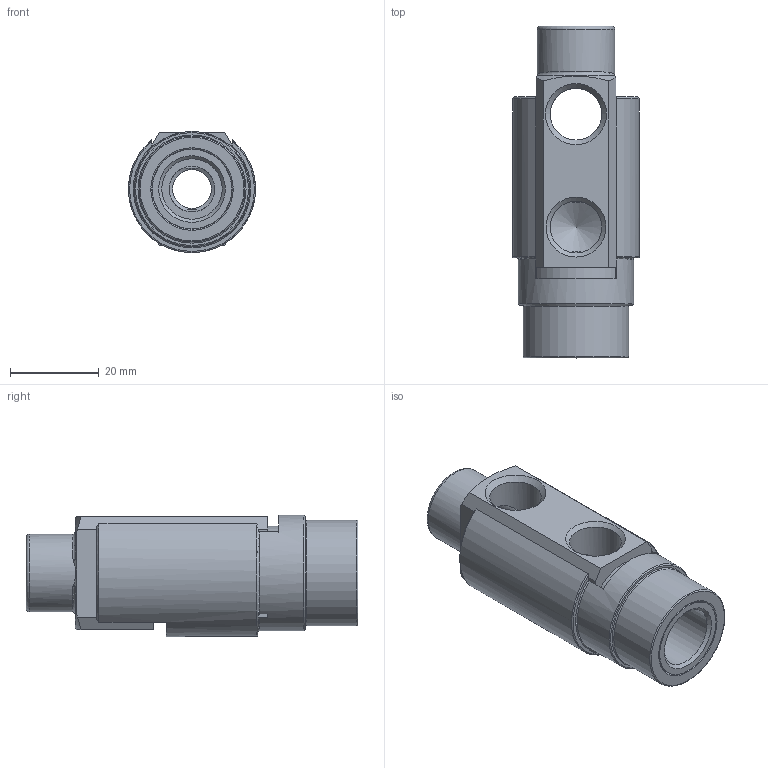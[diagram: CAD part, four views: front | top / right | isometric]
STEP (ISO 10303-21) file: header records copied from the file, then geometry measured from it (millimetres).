
FILE_DESCRIPTION(/* description */ (''),/* implementation_level */ '2;1');
FILE_NAME(/* name */ 'C:/Users/drich/Desktop/CAD FILES/SINCE 1-10-20/Rear Load Cascades/Quick Coupler Type/Head Only/SC141H-4-RL v2.step',/* time_stamp */ '2020-01-12T14:45:28-06:00',/* author */ (''),/* organization */ (''),/* preprocessor_version */ 'ST-DEVELOPER v18',/* originating_system */ 'Autodesk Translation Framework v8.12.0.6',/* authorisation */ '');
FILE_SCHEMA (('AUTOMOTIVE_DESIGN { 1 0 10303 214 3 1 1 }'));
Length unit declared in the file: inch
Products named in the file (4): SC141H-4-RL; SC141H-4-RL HEAD; BLACK SEAL; SC141H-4 Sleeve
Assembly tree (3 placements, depth 3):
  SC141H-4-RL
    SC141H-4-RL HEAD
      BLACK SEAL
      SC141H-4 Sleeve
Bounding box: 28.56 x 74.6 x 27.24 mm (x, y, z)
Volume: 25517.6 mm3; surface area: 17266.7 mm2
Topology: 3 solids, 3 shells, 84 faces, 239 edges, 163 vertices
Faces by surface type: plane 38, cylinder 22, cone 15, torus 9
Full cylindrical faces by diameter (mm): 8.707 x1, 10.312 x2, 11.668 x4, 13.589 x1, 13.716 x1, 17.45 x1, 17.907 x1, 18.034 x1, 21.057 x1, 23.8 x1, 25.908 x1
Entity records: 3113 total; most frequent: CARTESIAN_POINT 759, DIRECTION 497, ORIENTED_EDGE 476, EDGE_CURVE 238, AXIS2_PLACEMENT_3D 206, VERTEX_POINT 163, CIRCLE 107, EDGE_LOOP 99
